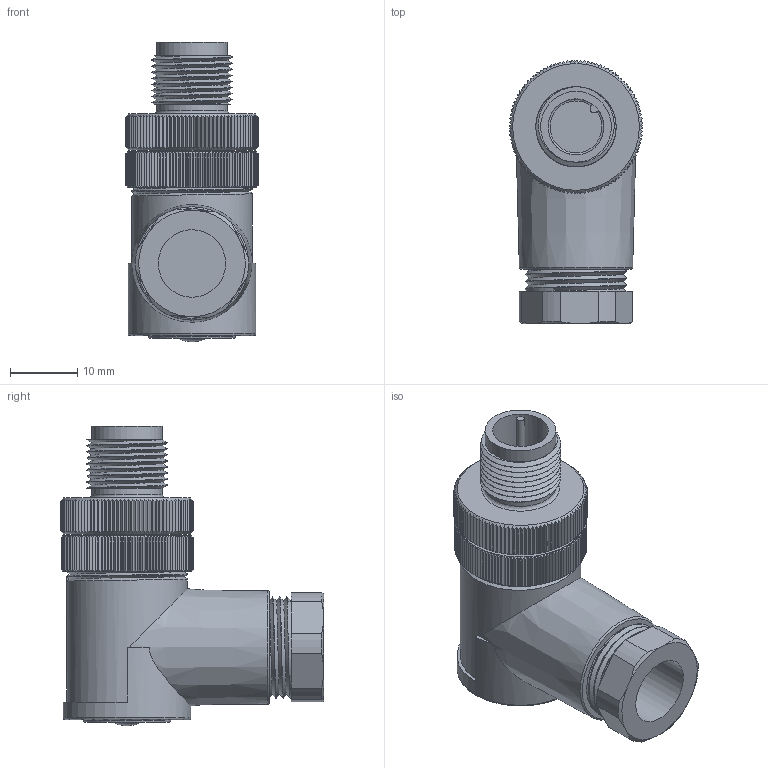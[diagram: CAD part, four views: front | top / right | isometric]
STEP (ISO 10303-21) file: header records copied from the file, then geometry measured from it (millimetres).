
FILE_DESCRIPTION((''),'2;1');
FILE_NAME('C:\TurckZip\BS_82.stp','2007-08-20T11:03:44',('IKOROL'),(''),'Autodesk Inventor 11','Autodesk Inventor 11','');
FILE_SCHEMA(('AUTOMOTIVE_DESIGN { 1 0 10303 214 1 1 1 1 }'));
Length unit declared in the file: millimetre
Products named in the file (1): Part1
Bounding box: 19.8 x 39.06 x 44.4 mm (x, y, z)
Volume: 7709.7 mm3; surface area: 9152.8 mm2
Topology: 3 solids, 3 shells, 998 faces, 2441 edges, 1459 vertices
Faces by surface type: plane 477, cylinder 254, cone 251, bspline 12, torus 4
Full cylindrical faces by diameter (mm): 8 x1, 8.3 x1, 9.4 x1, 9.9 x1, 10 x2, 10.5 x2, 12.2 x1, 12.9 x1, 14.4 x5, 14.8 x1, 17.9 x5, 18 x1, 18.9 x1
Entity records: 32269 total; most frequent: CARTESIAN_POINT 11548, ORIENTED_EDGE 4754, DIRECTION 4170, EDGE_CURVE 2377, AXIS2_PLACEMENT_3D 1734, VERTEX_POINT 1432, EDGE_LOOP 1031, FACE_OUTER_BOUND 989
